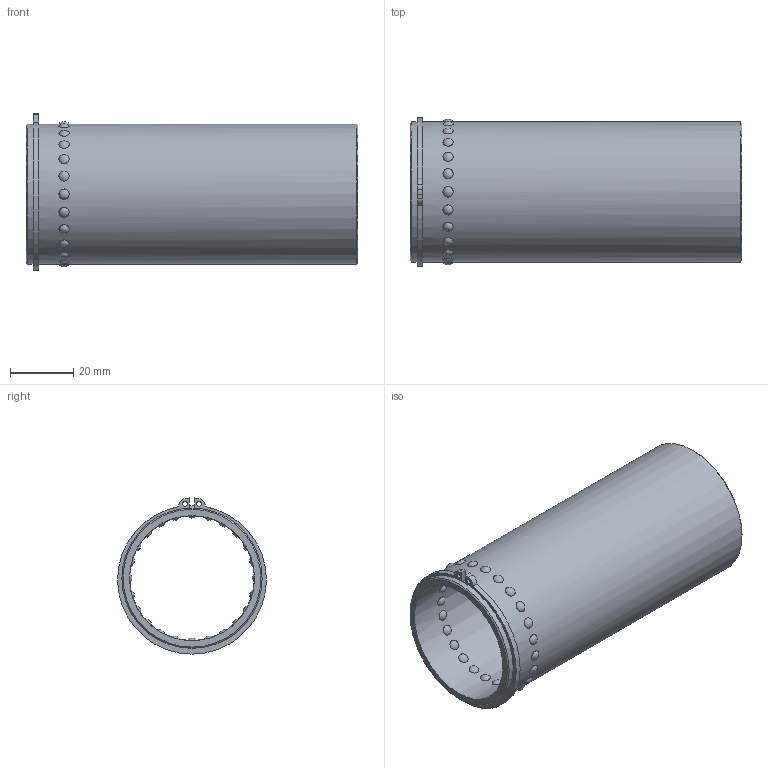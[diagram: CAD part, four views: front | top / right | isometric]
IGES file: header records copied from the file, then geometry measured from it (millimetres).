
Global section: file name: GSA38105.ipt; native system: Autodesk Inventor 2021; preprocessor: unknown; author: SM; date: 20211222.120915; units: millimetre
Bounding box: 105 x 47.1 x 49.48 mm (x, y, z)
Volume: 33752.3 mm3; surface area: 29538.1 mm2
Topology: 2 solids, 2 shells, 72 faces, 108 edges, 88 vertices
Faces by surface type: sphere 48, plane 12, cylinder 6, revolution 4, cone 2
Full cylindrical faces by diameter (mm): 43.4 x1, 44.4 x2
